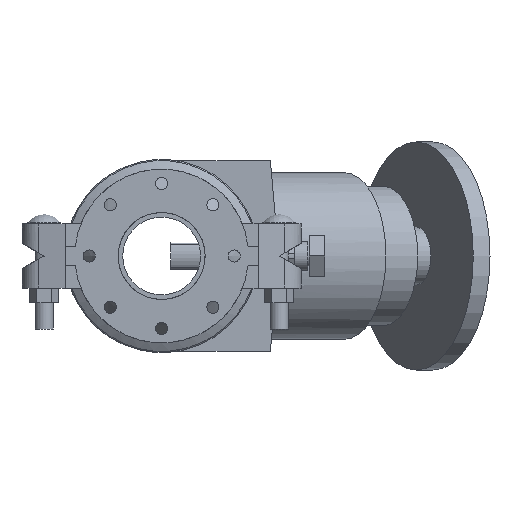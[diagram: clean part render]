
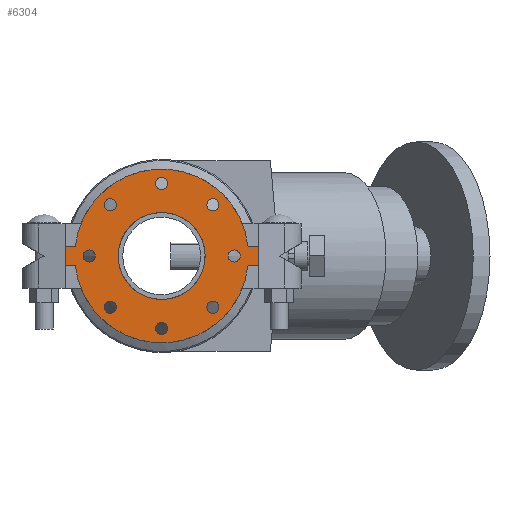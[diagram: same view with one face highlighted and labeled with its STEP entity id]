
A CAD part, front view. The second image highlights one B-rep face of the part: STEP entity #6304.
In plain terms, the highlighted planar face has unit normal (0, -1, 0) as drawn and (0, 0, 1) by its records, which use the part's own axes.
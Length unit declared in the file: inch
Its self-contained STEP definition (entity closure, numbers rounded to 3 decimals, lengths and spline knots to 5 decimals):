
#179=FACE_BOUND('',#821,.T.);
#180=FACE_BOUND('',#822,.T.);
#181=FACE_BOUND('',#823,.T.);
#182=FACE_BOUND('',#824,.T.);
#183=FACE_BOUND('',#825,.T.);
#184=FACE_BOUND('',#826,.T.);
#185=FACE_BOUND('',#827,.T.);
#186=FACE_BOUND('',#828,.T.);
#187=FACE_BOUND('',#829,.T.);
#254=PLANE('',#6873);
#465=FACE_OUTER_BOUND('',#820,.T.);
#820=EDGE_LOOP('',(#4105,#4106,#4107,#4108,#4109,#4110,#4111,#4112));
#821=EDGE_LOOP('',(#4113));
#822=EDGE_LOOP('',(#4114));
#823=EDGE_LOOP('',(#4115));
#824=EDGE_LOOP('',(#4116));
#825=EDGE_LOOP('',(#4117));
#826=EDGE_LOOP('',(#4118));
#827=EDGE_LOOP('',(#4119));
#828=EDGE_LOOP('',(#4120));
#829=EDGE_LOOP('',(#4121,#4122));
#1236=LINE('',#9652,#1702);
#1237=LINE('',#9655,#1703);
#1240=LINE('',#9660,#1706);
#1241=LINE('',#9663,#1707);
#1243=LINE('',#9666,#1709);
#1244=LINE('',#9668,#1710);
#1702=VECTOR('',#7682,0.3937);
#1703=VECTOR('',#7685,0.3937);
#1706=VECTOR('',#7690,0.3937);
#1707=VECTOR('',#7693,0.3937);
#1709=VECTOR('',#7697,0.3937);
#1710=VECTOR('',#7700,0.3937);
#2148=CIRCLE('',#6832,0.3125);
#2150=CIRCLE('',#6835,0.3125);
#2152=CIRCLE('',#6838,0.3125);
#2154=CIRCLE('',#6841,0.3125);
#2156=CIRCLE('',#6844,0.3125);
#2158=CIRCLE('',#6847,0.3125);
#2160=CIRCLE('',#6850,0.3125);
#2162=CIRCLE('',#6853,0.3125);
#2168=CIRCLE('',#6861,4.5);
#2169=CIRCLE('',#6863,2.25);
#2170=CIRCLE('',#6864,2.25);
#2171=CIRCLE('',#6866,4.5);
#2510=VERTEX_POINT('',#9563);
#2512=VERTEX_POINT('',#9569);
#2514=VERTEX_POINT('',#9575);
#2516=VERTEX_POINT('',#9581);
#2518=VERTEX_POINT('',#9587);
#2520=VERTEX_POINT('',#9593);
#2522=VERTEX_POINT('',#9599);
#2524=VERTEX_POINT('',#9605);
#2536=VERTEX_POINT('',#9632);
#2537=VERTEX_POINT('',#9634);
#2538=VERTEX_POINT('',#9638);
#2539=VERTEX_POINT('',#9640);
#2540=VERTEX_POINT('',#9644);
#2541=VERTEX_POINT('',#9646);
#2542=VERTEX_POINT('',#9650);
#2543=VERTEX_POINT('',#9654);
#2544=VERTEX_POINT('',#9658);
#2545=VERTEX_POINT('',#9662);
#3120=EDGE_CURVE('',#2510,#2510,#2148,.T.);
#3123=EDGE_CURVE('',#2512,#2512,#2150,.T.);
#3126=EDGE_CURVE('',#2514,#2514,#2152,.T.);
#3129=EDGE_CURVE('',#2516,#2516,#2154,.T.);
#3132=EDGE_CURVE('',#2518,#2518,#2156,.T.);
#3135=EDGE_CURVE('',#2520,#2520,#2158,.T.);
#3138=EDGE_CURVE('',#2522,#2522,#2160,.T.);
#3141=EDGE_CURVE('',#2524,#2524,#2162,.T.);
#3156=EDGE_CURVE('',#2536,#2537,#2168,.T.);
#3158=EDGE_CURVE('',#2539,#2538,#2169,.T.);
#3159=EDGE_CURVE('',#2538,#2539,#2170,.T.);
#3161=EDGE_CURVE('',#2541,#2540,#2171,.T.);
#3164=EDGE_CURVE('',#2537,#2542,#1236,.T.);
#3165=EDGE_CURVE('',#2543,#2541,#1237,.T.);
#3168=EDGE_CURVE('',#2540,#2544,#1240,.T.);
#3169=EDGE_CURVE('',#2545,#2536,#1241,.T.);
#3171=EDGE_CURVE('',#2544,#2545,#1243,.T.);
#3172=EDGE_CURVE('',#2542,#2543,#1244,.T.);
#4105=ORIENTED_EDGE('',*,*,#3168,.T.);
#4106=ORIENTED_EDGE('',*,*,#3171,.T.);
#4107=ORIENTED_EDGE('',*,*,#3169,.T.);
#4108=ORIENTED_EDGE('',*,*,#3156,.T.);
#4109=ORIENTED_EDGE('',*,*,#3164,.T.);
#4110=ORIENTED_EDGE('',*,*,#3172,.T.);
#4111=ORIENTED_EDGE('',*,*,#3165,.T.);
#4112=ORIENTED_EDGE('',*,*,#3161,.T.);
#4113=ORIENTED_EDGE('',*,*,#3120,.T.);
#4114=ORIENTED_EDGE('',*,*,#3123,.T.);
#4115=ORIENTED_EDGE('',*,*,#3126,.T.);
#4116=ORIENTED_EDGE('',*,*,#3129,.T.);
#4117=ORIENTED_EDGE('',*,*,#3132,.T.);
#4118=ORIENTED_EDGE('',*,*,#3135,.T.);
#4119=ORIENTED_EDGE('',*,*,#3138,.T.);
#4120=ORIENTED_EDGE('',*,*,#3141,.T.);
#4121=ORIENTED_EDGE('',*,*,#3158,.T.);
#4122=ORIENTED_EDGE('',*,*,#3159,.T.);
#6304=ADVANCED_FACE('',(#465,#179,#180,#181,#182,#183,#184,#185,#186,#187),
#254,.T.);
#6832=AXIS2_PLACEMENT_3D('',#9564,#7590,#7591);
#6835=AXIS2_PLACEMENT_3D('',#9570,#7597,#7598);
#6838=AXIS2_PLACEMENT_3D('',#9576,#7604,#7605);
#6841=AXIS2_PLACEMENT_3D('',#9582,#7611,#7612);
#6844=AXIS2_PLACEMENT_3D('',#9588,#7618,#7619);
#6847=AXIS2_PLACEMENT_3D('',#9594,#7625,#7626);
#6850=AXIS2_PLACEMENT_3D('',#9600,#7632,#7633);
#6853=AXIS2_PLACEMENT_3D('',#9606,#7639,#7640);
#6861=AXIS2_PLACEMENT_3D('',#9636,#7664,#7665);
#6863=AXIS2_PLACEMENT_3D('',#9641,#7669,#7670);
#6864=AXIS2_PLACEMENT_3D('',#9642,#7671,#7672);
#6866=AXIS2_PLACEMENT_3D('',#9647,#7676,#7677);
#6873=AXIS2_PLACEMENT_3D('',#9669,#7701,#7702);
#7590=DIRECTION('center_axis',(0.,0.,-1.));
#7591=DIRECTION('ref_axis',(-0.707,0.707,0.));
#7597=DIRECTION('center_axis',(0.,0.,-1.));
#7598=DIRECTION('ref_axis',(0.,1.,0.));
#7604=DIRECTION('center_axis',(0.,0.,-1.));
#7605=DIRECTION('ref_axis',(0.707,0.707,0.));
#7611=DIRECTION('center_axis',(0.,0.,-1.));
#7612=DIRECTION('ref_axis',(1.,0.,0.));
#7618=DIRECTION('center_axis',(0.,0.,-1.));
#7619=DIRECTION('ref_axis',(0.707,-0.707,0.));
#7625=DIRECTION('center_axis',(0.,0.,-1.));
#7626=DIRECTION('ref_axis',(0.,-1.,0.));
#7632=DIRECTION('center_axis',(0.,0.,-1.));
#7633=DIRECTION('ref_axis',(-0.707,-0.707,0.));
#7639=DIRECTION('center_axis',(0.,0.,-1.));
#7640=DIRECTION('ref_axis',(-1.,0.,0.));
#7664=DIRECTION('center_axis',(0.,0.,1.));
#7665=DIRECTION('ref_axis',(-1.,0.,0.));
#7669=DIRECTION('center_axis',(0.,0.,-1.));
#7670=DIRECTION('ref_axis',(-1.,0.,0.));
#7671=DIRECTION('center_axis',(0.,0.,-1.));
#7672=DIRECTION('ref_axis',(-1.,0.,0.));
#7676=DIRECTION('center_axis',(0.,0.,1.));
#7677=DIRECTION('ref_axis',(-1.,0.,0.));
#7682=DIRECTION('',(0.,1.,0.));
#7685=DIRECTION('',(0.,-1.,0.));
#7690=DIRECTION('',(0.,-1.,0.));
#7693=DIRECTION('',(0.,1.,0.));
#7697=DIRECTION('',(1.,0.,0.));
#7700=DIRECTION('',(-1.,0.,0.));
#7701=DIRECTION('center_axis',(0.,0.,1.));
#7702=DIRECTION('ref_axis',(1.,0.,0.));
#9563=CARTESIAN_POINT('',(-2.43068,2.43068,0.5));
#9564=CARTESIAN_POINT('Origin',(-2.65165,2.65165,0.5));
#9569=CARTESIAN_POINT('',(0.,3.4375,0.5));
#9570=CARTESIAN_POINT('Origin',(0.,3.75,0.5));
#9575=CARTESIAN_POINT('',(2.43068,2.43068,0.5));
#9576=CARTESIAN_POINT('Origin',(2.65165,2.65165,0.5));
#9581=CARTESIAN_POINT('',(3.4375,0.,0.5));
#9582=CARTESIAN_POINT('Origin',(3.75,0.,0.5));
#9587=CARTESIAN_POINT('',(2.43068,-2.43068,0.5));
#9588=CARTESIAN_POINT('Origin',(2.65165,-2.65165,0.5));
#9593=CARTESIAN_POINT('',(0.,-3.4375,0.5));
#9594=CARTESIAN_POINT('Origin',(0.,-3.75,0.5));
#9599=CARTESIAN_POINT('',(-2.43068,-2.43068,0.5));
#9600=CARTESIAN_POINT('Origin',(-2.65165,-2.65165,0.5));
#9605=CARTESIAN_POINT('',(-3.4375,0.,0.5));
#9606=CARTESIAN_POINT('Origin',(-3.75,0.,0.5));
#9632=CARTESIAN_POINT('',(0.5,-4.47214,0.5));
#9634=CARTESIAN_POINT('',(0.5,4.47214,0.5));
#9636=CARTESIAN_POINT('Origin',(0.,0.,0.5));
#9638=CARTESIAN_POINT('',(2.25,0.,0.5));
#9640=CARTESIAN_POINT('',(0.5,2.19374,0.5));
#9641=CARTESIAN_POINT('Origin',(0.,0.,0.5));
#9642=CARTESIAN_POINT('Origin',(0.,0.,0.5));
#9644=CARTESIAN_POINT('',(-0.5,-4.47214,0.5));
#9646=CARTESIAN_POINT('',(-0.5,4.47214,0.5));
#9647=CARTESIAN_POINT('Origin',(0.,0.,0.5));
#9650=CARTESIAN_POINT('',(0.5,5.,0.5));
#9652=CARTESIAN_POINT('',(0.5,5.,0.5));
#9654=CARTESIAN_POINT('',(-0.5,5.,0.5));
#9655=CARTESIAN_POINT('',(-0.5,-5.,0.5));
#9658=CARTESIAN_POINT('',(-0.5,-5.,0.5));
#9660=CARTESIAN_POINT('',(-0.5,-5.,0.5));
#9662=CARTESIAN_POINT('',(0.5,-5.,0.5));
#9663=CARTESIAN_POINT('',(0.5,5.,0.5));
#9666=CARTESIAN_POINT('',(0.5,-5.,0.5));
#9668=CARTESIAN_POINT('',(-0.5,5.,0.5));
#9669=CARTESIAN_POINT('Origin',(0.,0.,0.5));
